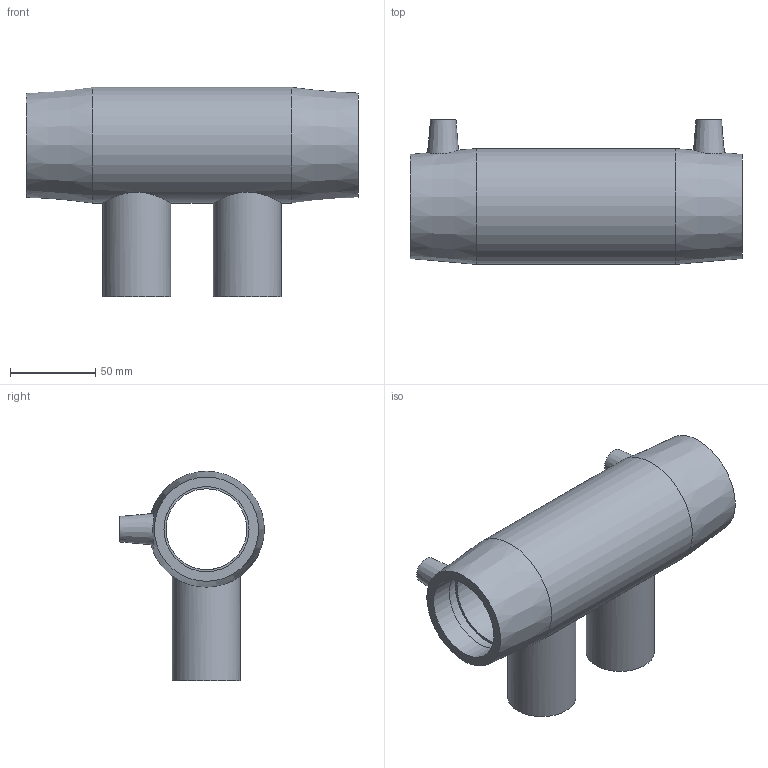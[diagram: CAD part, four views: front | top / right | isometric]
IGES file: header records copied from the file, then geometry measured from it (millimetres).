
Global section: file name: 492404050040.ipt; native system: Autodesk Inventor 2015; preprocessor: unknown; author: KIM; date: 20171106.093928; units: millimetre
Bounding box: 195 x 85 x 123 mm (x, y, z)
Volume: 358094.1 mm3; surface area: 101249.7 mm2
Topology: 1 solids, 1 shells, 34 faces, 82 edges, 55 vertices
Faces by surface type: plane 14, revolution 11, cylinder 5, cone 4
Full cylindrical faces by diameter (mm): 4 x2, 40 x2, 68 x1
